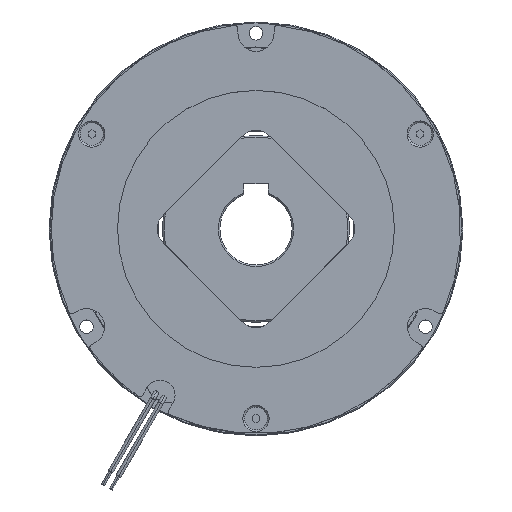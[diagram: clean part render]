
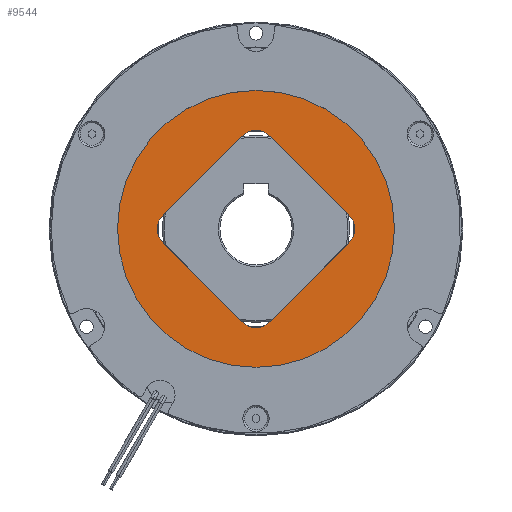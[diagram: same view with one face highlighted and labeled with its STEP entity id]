
A CAD part, top view. The second image highlights one B-rep face of the part: STEP entity #9544.
In plain terms, the highlighted planar face has unit normal (0, 0, 1).
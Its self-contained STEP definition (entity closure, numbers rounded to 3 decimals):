
#18 = VERTEX_POINT ( 'NONE', #5990 ) ;
#42 = VERTEX_POINT ( 'NONE', #5944 ) ;
#75 = VERTEX_POINT ( 'NONE', #5936 ) ;
#109 = VERTEX_POINT ( 'NONE', #5931 ) ;
#125 = VERTEX_POINT ( 'NONE', #5923 ) ;
#165 = VERTEX_POINT ( 'NONE', #5976 ) ;
#235 = VERTEX_POINT ( 'NONE', #6021 ) ;
#345 = VERTEX_POINT ( 'NONE', #5861 ) ;
#423 = VERTEX_POINT ( 'NONE', #5864 ) ;
#509 = EDGE_LOOP ( 'NONE', ( #10342, #10355, #10410, #10268, #10279, #10447, #10429, #10376, #10498, #10283, #10451, #10340, #10435, #10438, #10499, #10310 ) ) ;
#585 = EDGE_LOOP ( 'NONE', ( #10255, #10449 ) ) ;
#719 = VERTEX_POINT ( 'NONE', #5842 ) ;
#1325 = CARTESIAN_POINT ( 'NONE',  ( 0., 35.355, 21.15 ) ) ;
#1326 = DIRECTION ( 'NONE',  ( -0.707, -0.707, 0. ) ) ;
#1389 = CARTESIAN_POINT ( 'NONE',  ( 35.355, 0., 21.15 ) ) ;
#1400 = DIRECTION ( 'NONE',  ( 0.707, 0.707, 0. ) ) ;
#1407 = CARTESIAN_POINT ( 'NONE',  ( 0., 35.355, 21.15 ) ) ;
#1408 = DIRECTION ( 'NONE',  ( -0.707, -0.707, 0. ) ) ;
#1437 = CARTESIAN_POINT ( 'NONE',  ( 0., 35.355, 21.15 ) ) ;
#1446 = CARTESIAN_POINT ( 'NONE',  ( 0., 35.355, 21.15 ) ) ;
#1450 = DIRECTION ( 'NONE',  ( 0.707, 0.707, 0. ) ) ;
#1451 = DIRECTION ( 'NONE',  ( -0.707, 0.707, 0. ) ) ;
#1731 = CARTESIAN_POINT ( 'NONE',  ( 35.355, 0., 21.15 ) ) ;
#1740 = CARTESIAN_POINT ( 'NONE',  ( 0., 35.355, 21.15 ) ) ;
#1741 = DIRECTION ( 'NONE',  ( -0.707, 0.707, 0. ) ) ;
#1746 = CARTESIAN_POINT ( 'NONE',  ( 0., 35.355, 21.15 ) ) ;
#1747 = DIRECTION ( 'NONE',  ( -0.707, 0.707, 0. ) ) ;
#1751 = DIRECTION ( 'NONE',  ( 0.707, 0.707, 0. ) ) ;
#1754 = CARTESIAN_POINT ( 'NONE',  ( 0., 0., 21.15 ) ) ;
#1755 = DIRECTION ( 'NONE',  ( 0., 0., 1. ) ) ;
#1756 = DIRECTION ( 'NONE',  ( 1., 0., 0. ) ) ;
#1762 = CARTESIAN_POINT ( 'NONE',  ( 0., -26.87, 21.15 ) ) ;
#1763 = DIRECTION ( 'NONE',  ( 0., 0., -1. ) ) ;
#1764 = DIRECTION ( 'NONE',  ( 0.707, -0.707, 0. ) ) ;
#1766 = CARTESIAN_POINT ( 'NONE',  ( -26.87, 0., 21.15 ) ) ;
#1767 = DIRECTION ( 'NONE',  ( 0., 0., -1. ) ) ;
#1768 = DIRECTION ( 'NONE',  ( 0.707, -0.707, 0. ) ) ;
#1771 = CARTESIAN_POINT ( 'NONE',  ( 0., 26.87, 21.15 ) ) ;
#1772 = DIRECTION ( 'NONE',  ( 0., 0., -1. ) ) ;
#1773 = DIRECTION ( 'NONE',  ( 0.707, -0.707, 0. ) ) ;
#1776 = CARTESIAN_POINT ( 'NONE',  ( 26.87, 0., 21.15 ) ) ;
#1777 = DIRECTION ( 'NONE',  ( 0., 0., -1. ) ) ;
#1778 = DIRECTION ( 'NONE',  ( 0.707, -0.707, 0. ) ) ;
#1916 = CARTESIAN_POINT ( 'NONE',  ( 31.113, -4.243, 21.15 ) ) ;
#1965 = CARTESIAN_POINT ( 'NONE',  ( -31.113, -4.243, 21.15 ) ) ;
#1967 = CARTESIAN_POINT ( 'NONE',  ( 4.243, 31.113, 21.15 ) ) ;
#1972 = CARTESIAN_POINT ( 'NONE',  ( 31.113, 4.243, 21.15 ) ) ;
#1973 = CARTESIAN_POINT ( 'NONE',  ( 4.243, -31.113, 21.15 ) ) ;
#1974 = CARTESIAN_POINT ( 'NONE',  ( -4.243, 31.113, 21.15 ) ) ;
#1979 = CARTESIAN_POINT ( 'NONE',  ( -4.243, -31.113, 21.15 ) ) ;
#1985 = CARTESIAN_POINT ( 'NONE',  ( -31.113, 4.243, 21.15 ) ) ;
#2475 = EDGE_CURVE ( 'NONE', #345, #42, #12577, .T. ) ;
#2814 = LINE ( 'NONE', #1325, #2816 ) ;
#2816 = VECTOR ( 'NONE', #1326, 1000. ) ;
#2845 = LINE ( 'NONE', #1407, #2848 ) ;
#2848 = VECTOR ( 'NONE', #1408, 1000. ) ;
#2849 = LINE ( 'NONE', #1389, #2851 ) ;
#2851 = VECTOR ( 'NONE', #1400, 1000. ) ;
#2866 = LINE ( 'NONE', #1446, #2867 ) ;
#2867 = VECTOR ( 'NONE', #1450, 1000. ) ;
#2868 = LINE ( 'NONE', #1437, #2870 ) ;
#2870 = VECTOR ( 'NONE', #1451, 1000. ) ;
#2996 = LINE ( 'NONE', #9243, #3014 ) ;
#3009 = LINE ( 'NONE', #9247, #3012 ) ;
#3012 = VECTOR ( 'NONE', #9248, 1000. ) ;
#3014 = VECTOR ( 'NONE', #9249, 1000. ) ;
#3025 = LINE ( 'NONE', #9271, #3029 ) ;
#3029 = VECTOR ( 'NONE', #9272, 1000. ) ;
#3143 = LINE ( 'NONE', #1740, #3146 ) ;
#3146 = VECTOR ( 'NONE', #1741, 1000. ) ;
#3149 = LINE ( 'NONE', #1746, #3152 ) ;
#3151 = LINE ( 'NONE', #1731, #3158 ) ;
#3152 = VECTOR ( 'NONE', #1747, 1000. ) ;
#3155 = CIRCLE ( 'NONE', #8143, 6. ) ;
#3158 = VECTOR ( 'NONE', #1751, 1000. ) ;
#3159 = CIRCLE ( 'NONE', #8139, 46. ) ;
#3162 = CIRCLE ( 'NONE', #8141, 6. ) ;
#3163 = CIRCLE ( 'NONE', #8142, 6. ) ;
#3167 = CIRCLE ( 'NONE', #8144, 6. ) ;
#5600 = PLANE ( 'NONE',  #11685 ) ;
#5610 = CARTESIAN_POINT ( 'NONE',  ( 0., 0., 21.15 ) ) ;
#5612 = DIRECTION ( 'NONE',  ( 0., 0., 1. ) ) ;
#5613 = DIRECTION ( 'NONE',  ( 0.707, -0.707, 0. ) ) ;
#5842 = CARTESIAN_POINT ( 'NONE',  ( -4.716, 30.639, 21.15 ) ) ;
#5861 = CARTESIAN_POINT ( 'NONE',  ( -46., 0., 21.15 ) ) ;
#5864 = CARTESIAN_POINT ( 'NONE',  ( -30.639, 4.716, 21.15 ) ) ;
#5923 = CARTESIAN_POINT ( 'NONE',  ( 30.639, -4.716, 21.15 ) ) ;
#5931 = CARTESIAN_POINT ( 'NONE',  ( 30.639, 4.716, 21.15 ) ) ;
#5936 = CARTESIAN_POINT ( 'NONE',  ( -30.639, -4.716, 21.15 ) ) ;
#5944 = CARTESIAN_POINT ( 'NONE',  ( 46., 0., 21.15 ) ) ;
#5976 = CARTESIAN_POINT ( 'NONE',  ( 4.716, 30.639, 21.15 ) ) ;
#5990 = CARTESIAN_POINT ( 'NONE',  ( -4.716, -30.639, 21.15 ) ) ;
#6021 = CARTESIAN_POINT ( 'NONE',  ( 4.716, -30.639, 21.15 ) ) ;
#7007 = FACE_OUTER_BOUND ( 'NONE', #585, .T. ) ;
#7023 = FACE_BOUND ( 'NONE', #509, .T. ) ;
#8139 = AXIS2_PLACEMENT_3D ( 'NONE', #1754, #1755, #1756 ) ;
#8141 = AXIS2_PLACEMENT_3D ( 'NONE', #1762, #1763, #1764 ) ;
#8142 = AXIS2_PLACEMENT_3D ( 'NONE', #1766, #1767, #1768 ) ;
#8143 = AXIS2_PLACEMENT_3D ( 'NONE', #1771, #1772, #1773 ) ;
#8144 = AXIS2_PLACEMENT_3D ( 'NONE', #1776, #1777, #1778 ) ;
#8877 = LINE ( 'NONE', #13650, #8880 ) ;
#8880 = VECTOR ( 'NONE', #13651, 1000. ) ;
#9243 = CARTESIAN_POINT ( 'NONE',  ( -35.355, 0., 21.15 ) ) ;
#9247 = CARTESIAN_POINT ( 'NONE',  ( 35.355, 0., 21.15 ) ) ;
#9248 = DIRECTION ( 'NONE',  ( 0.707, 0.707, 0. ) ) ;
#9249 = DIRECTION ( 'NONE',  ( 0.707, -0.707, 0. ) ) ;
#9271 = CARTESIAN_POINT ( 'NONE',  ( -35.355, 0., 21.15 ) ) ;
#9272 = DIRECTION ( 'NONE',  ( 0.707, -0.707, 0. ) ) ;
#9544 = ADVANCED_FACE ( 'NONE', ( #7023, #7007 ), #5600, .T. ) ;
#10255 = ORIENTED_EDGE ( 'NONE', *, *, #11256, .T. ) ;
#10268 = ORIENTED_EDGE ( 'NONE', *, *, #11010, .F. ) ;
#10279 = ORIENTED_EDGE ( 'NONE', *, *, #11250, .F. ) ;
#10283 = ORIENTED_EDGE ( 'NONE', *, *, #11259, .T. ) ;
#10310 = ORIENTED_EDGE ( 'NONE', *, *, #11009, .T. ) ;
#10340 = ORIENTED_EDGE ( 'NONE', *, *, #13147, .F. ) ;
#10342 = ORIENTED_EDGE ( 'NONE', *, *, #10994, .F. ) ;
#10355 = ORIENTED_EDGE ( 'NONE', *, *, #11265, .T. ) ;
#10376 = ORIENTED_EDGE ( 'NONE', *, *, #10996, .F. ) ;
#10410 = ORIENTED_EDGE ( 'NONE', *, *, #11245, .F. ) ;
#10429 = ORIENTED_EDGE ( 'NONE', *, *, #11254, .F. ) ;
#10435 = ORIENTED_EDGE ( 'NONE', *, *, #11116, .F. ) ;
#10438 = ORIENTED_EDGE ( 'NONE', *, *, #11261, .T. ) ;
#10447 = ORIENTED_EDGE ( 'NONE', *, *, #11267, .T. ) ;
#10449 = ORIENTED_EDGE ( 'NONE', *, *, #2475, .T. ) ;
#10451 = ORIENTED_EDGE ( 'NONE', *, *, #11106, .F. ) ;
#10498 = ORIENTED_EDGE ( 'NONE', *, *, #11105, .F. ) ;
#10499 = ORIENTED_EDGE ( 'NONE', *, *, #10974, .F. ) ;
#10974 = EDGE_CURVE ( 'NONE', #423, #12337, #2814, .T. ) ;
#10994 = EDGE_CURVE ( 'NONE', #12314, #719, #2845, .T. ) ;
#10996 = EDGE_CURVE ( 'NONE', #235, #125, #2849, .T. ) ;
#11009 = EDGE_CURVE ( 'NONE', #423, #719, #2866, .T. ) ;
#11010 = EDGE_CURVE ( 'NONE', #109, #165, #2868, .T. ) ;
#11105 = EDGE_CURVE ( 'NONE', #12313, #235, #3009, .T. ) ;
#11106 = EDGE_CURVE ( 'NONE', #18, #12319, #2996, .T. ) ;
#11116 = EDGE_CURVE ( 'NONE', #12305, #75, #3025, .T. ) ;
#11245 = EDGE_CURVE ( 'NONE', #165, #12309, #3143, .T. ) ;
#11250 = EDGE_CURVE ( 'NONE', #12312, #109, #3149, .T. ) ;
#11254 = EDGE_CURVE ( 'NONE', #125, #12227, #3151, .T. ) ;
#11256 = EDGE_CURVE ( 'NONE', #42, #345, #3159, .T. ) ;
#11259 = EDGE_CURVE ( 'NONE', #12313, #12319, #3162, .T. ) ;
#11261 = EDGE_CURVE ( 'NONE', #12305, #12337, #3163, .T. ) ;
#11265 = EDGE_CURVE ( 'NONE', #12314, #12309, #3155, .T. ) ;
#11267 = EDGE_CURVE ( 'NONE', #12312, #12227, #3167, .T. ) ;
#11395 = AXIS2_PLACEMENT_3D ( 'NONE', #12069, #12093, #12148 ) ;
#11685 = AXIS2_PLACEMENT_3D ( 'NONE', #5610, #5612, #5613 ) ;
#12069 = CARTESIAN_POINT ( 'NONE',  ( 0., 0., 21.15 ) ) ;
#12093 = DIRECTION ( 'NONE',  ( 0., 0., 1. ) ) ;
#12148 = DIRECTION ( 'NONE',  ( 1., 0., 0. ) ) ;
#12227 = VERTEX_POINT ( 'NONE', #1916 ) ;
#12305 = VERTEX_POINT ( 'NONE', #1965 ) ;
#12309 = VERTEX_POINT ( 'NONE', #1967 ) ;
#12312 = VERTEX_POINT ( 'NONE', #1972 ) ;
#12313 = VERTEX_POINT ( 'NONE', #1973 ) ;
#12314 = VERTEX_POINT ( 'NONE', #1974 ) ;
#12319 = VERTEX_POINT ( 'NONE', #1979 ) ;
#12337 = VERTEX_POINT ( 'NONE', #1985 ) ;
#12577 = CIRCLE ( 'NONE', #11395, 46. ) ;
#13147 = EDGE_CURVE ( 'NONE', #75, #18, #8877, .T. ) ;
#13650 = CARTESIAN_POINT ( 'NONE',  ( -35.355, 0., 21.15 ) ) ;
#13651 = DIRECTION ( 'NONE',  ( 0.707, -0.707, 0. ) ) ;
